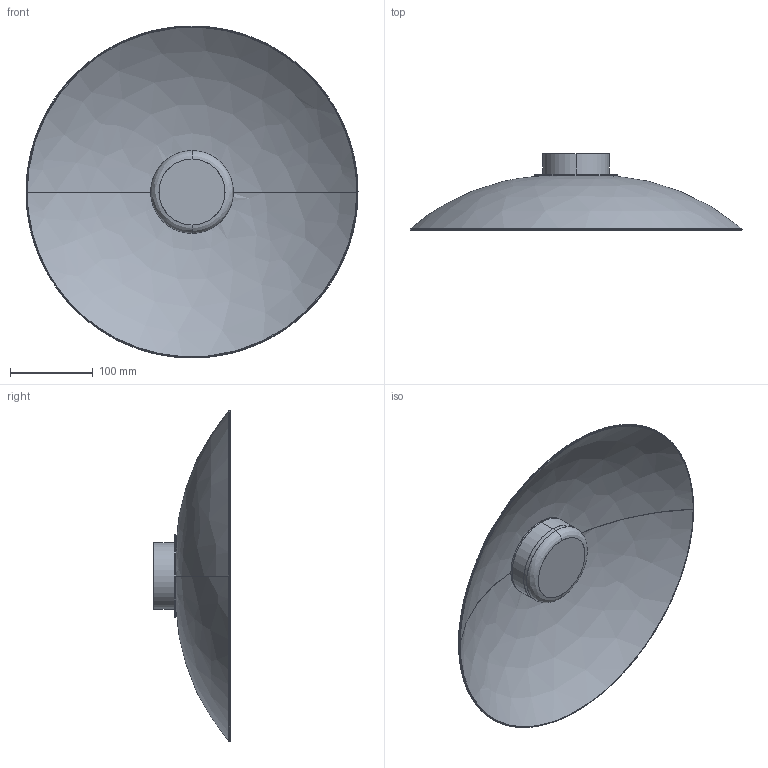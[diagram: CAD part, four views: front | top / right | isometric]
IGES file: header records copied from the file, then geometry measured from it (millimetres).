
Start section: SolidWorks IGES file using analytic representation for surfaces
Global section: file name: C:\Users\Agustin\Desktop\ENERO 2025\2D-3D\2D-3D BETTY_1338\BETTY_A1338\BETTY_A1338.IGS; native system: SolidWorks 2018; preprocessor: SolidWorks 2018; author: Agustin; date: 250117.162147; units: millimetre
Bounding box: 402.18 x 92.79 x 402.18 mm (x, y, z)
Surface area: 380880.7 mm2 (no closed solid volume)
Topology: 0 solids, 0 shells, 35 faces, 864 edges, 860 vertices
Faces by surface type: bspline 21, revolution 14
